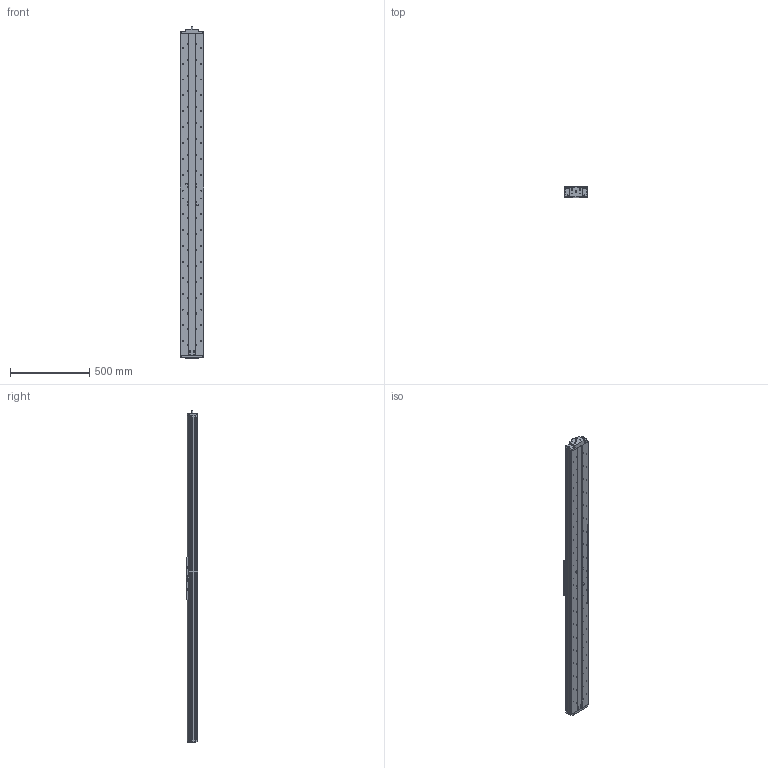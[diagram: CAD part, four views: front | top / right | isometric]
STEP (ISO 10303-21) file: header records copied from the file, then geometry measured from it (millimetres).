
FILE_DESCRIPTION((''),'2;1');
FILE_NAME('406XR-13_ASM','2002-07-12T',('FKrakosh'),(''),'PRO/ENGINEER BY PARAMETRIC TECHNOLOGY CORPORATION, 2000420','PRO/ENGINEER BY PARAMETRIC TECHNOLOGY CORPORATION, 2000420','');
FILE_SCHEMA(('CONFIG_CONTROL_DESIGN'));
Length unit declared in the file: millimetre
Products named in the file (8): 406XR-BASE-13; 406XR-REAR-END-BLK; 406XR-CARRIAGE; 10853610-01; 406XR-FEB-10MM; 10426110; 30321911; 406XR-13_ASM
Assembly tree (8 placements, depth 2):
  406XR-13_ASM
    406XR-BASE-13
    406XR-REAR-END-BLK
    406XR-CARRIAGE
    10853610-01  x2
    406XR-FEB-10MM
    10426110
    30321911
Bounding box: 150 x 69.9 x 2092.73 mm (x, y, z)
Volume: 17528678.8 mm3; surface area: 1195983.1 mm2
Topology: 8 solids, 86 shells, 1128 faces, 2748 edges, 1852 vertices
Faces by surface type: cylinder 614, plane 484, bspline 16, sphere 12, cone 2
Entity records: 32072 total; most frequent: CARTESIAN_POINT 6624, DIRECTION 5718, ORIENTED_EDGE 4678, EDGE_CURVE 2491, AXIS2_PLACEMENT_3D 2273, VERTEX_POINT 1695, EDGE_LOOP 1302, CIRCLE 1231
